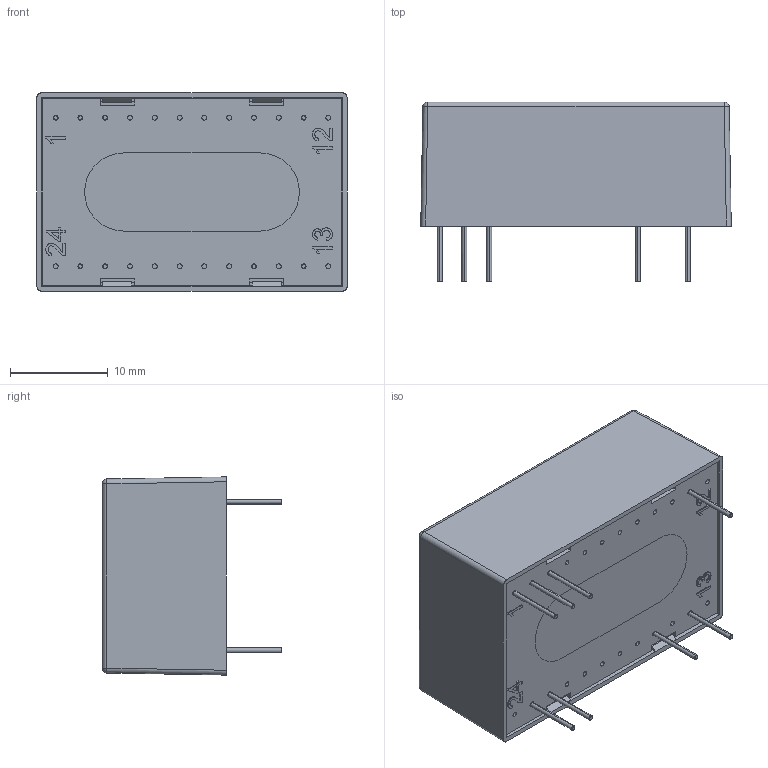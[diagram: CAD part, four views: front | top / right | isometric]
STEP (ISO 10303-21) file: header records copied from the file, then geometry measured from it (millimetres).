
FILE_DESCRIPTION (( 'STEP AP214' ), '1' );
FILE_NAME ('RSDW10組合圖-1060105.STEP', '2020-05-21T02:51:45', ( '' ), ( '' ), 'SwSTEP 2.0', 'SolidWorks 2017', '' );
FILE_SCHEMA (( 'AUTOMOTIVE_DESIGN' ));
Length unit declared in the file: millimetre
Products named in the file (6): RSDW10組合圖-1060105; RSDW10 PIN-1060105; RSDW10 CASE-1060105; RSDW10 RUB-1060105; RSDW10 BASE+PIN-1060105; RSDW10 BASE-1060105
Assembly tree (12 placements, depth 3):
  RSDW10組合圖-1060105
    RSDW10 BASE+PIN-1060105
      RSDW10 BASE-1060105
      RSDW10 PIN-1060105  x8
    RSDW10 CASE-1060105
    RSDW10 RUB-1060105
Bounding box: 31.8 x 18.4 x 20.3 mm (x, y, z)
Volume: 1870.6 mm3; surface area: 5318.8 mm2
Topology: 11 solids, 11 shells, 952 faces, 2487 edges, 1578 vertices
Faces by surface type: plane 501, cylinder 343, bspline 88, cone 16, sphere 4
Entity records: 22034 total; most frequent: CARTESIAN_POINT 9065, ORIENTED_EDGE 2768, DIRECTION 2400, EDGE_CURVE 1384, VERTEX_POINT 906, LINE 878, VECTOR 878, AXIS2_PLACEMENT_3D 761
